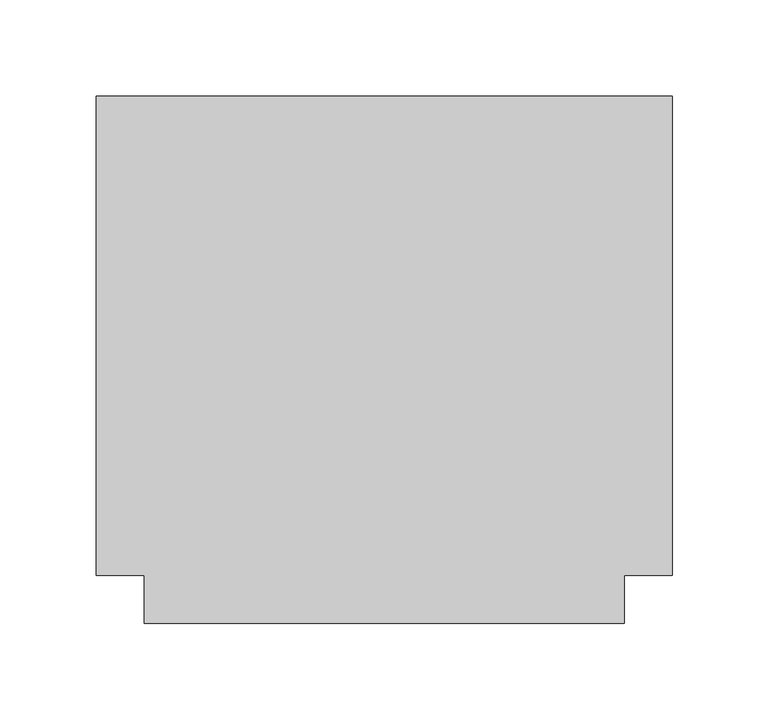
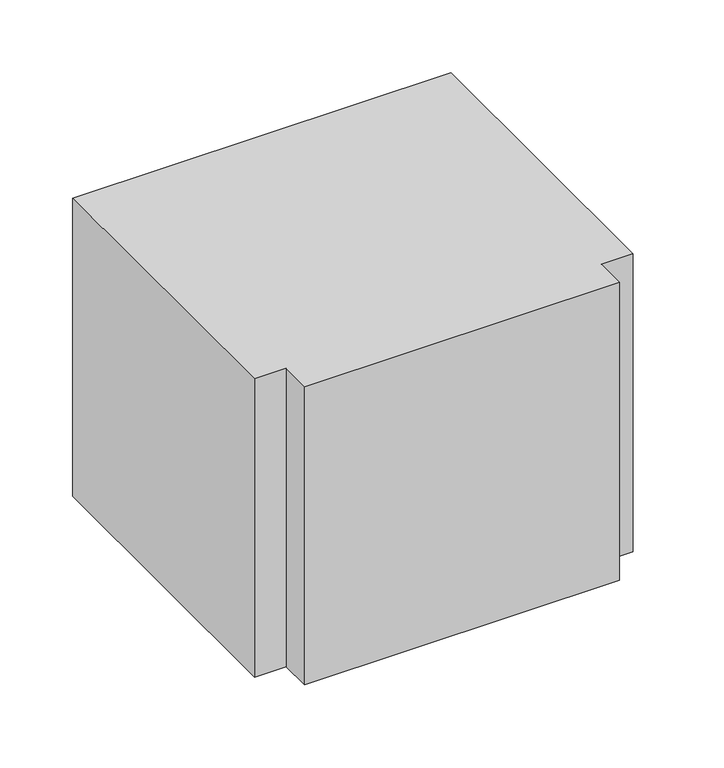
"""IFC4 building model written with IfcOpenShell, lengths in millimetres: duct fitting geometry, M_Te rectangular : Estándar."""

from ifc_helpers import new_model, si_unit, frame, origin, place, context, project, spatial, polyline, outline, extrude, source, transform, mapped, element, save


def duct_fitting_aea09369(model_context):
    return source(origin(), model_context, "Body", "SweptSolid", [
        extrude(outline(polyline([(-150.0, -125.0), (-150.0, 125.0), (150.0, 125.0), (150.0, -125.0), (125.0, -125.0), (125.0, -150.0), (-125.0, -150.0), (-125.0, -125.0), (-150.0, -125.0)])), frame((0.0, 0.0, -125.0), z_axis=(0.0, 0.0, 1.0), x_axis=(1.0, 0.0, 0.0)), (0.0, 0.0, 1.0), 250.0),
    ])


if __name__ == "__main__":
    model = new_model("IFC4")
    model_context = context("Model", 3, world=origin())
    ifc_project = project(units=[si_unit("LENGTHUNIT", "METRE", prefix="MILLI")], contexts=[model_context])
    site = spatial("IfcSite", under=ifc_project)
    building = spatial("IfcBuilding", under=site)
    placement = place(None, origin())
    duct_fitting_shape = duct_fitting_aea09369(model_context)
    element("IfcDuctFitting", 1, ObjectType="M_Te rectangular : Estándar", at=placement, inside=building, context=model_context, shape_type="MappedRepresentation", body=[
        mapped(duct_fitting_shape, transform((0.0, 0.0, 0.0), x_axis=(1.0, 0.0, 0.0), y_axis=(0.0, 1.0, 0.0), z_axis=(0.0, 0.0, 1.0))),
    ])
    save(model, "model.ifc")
